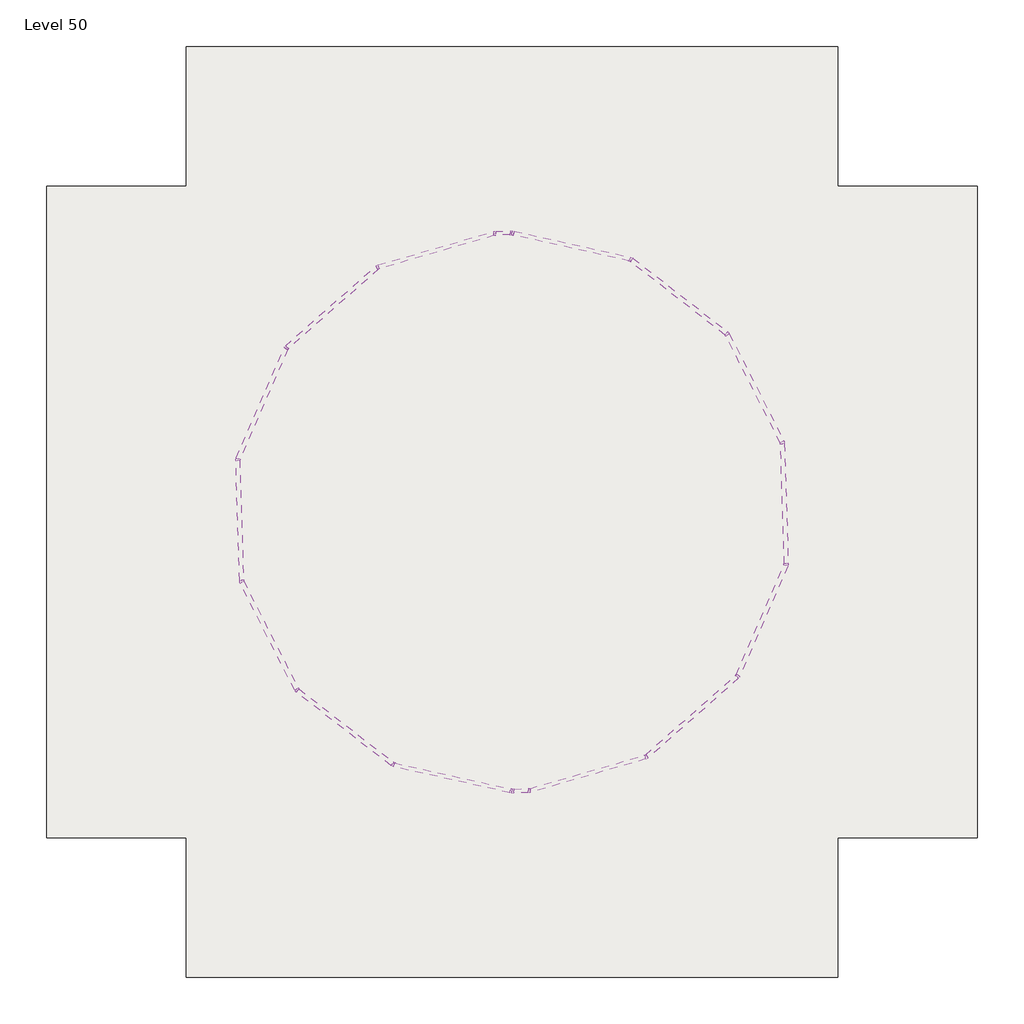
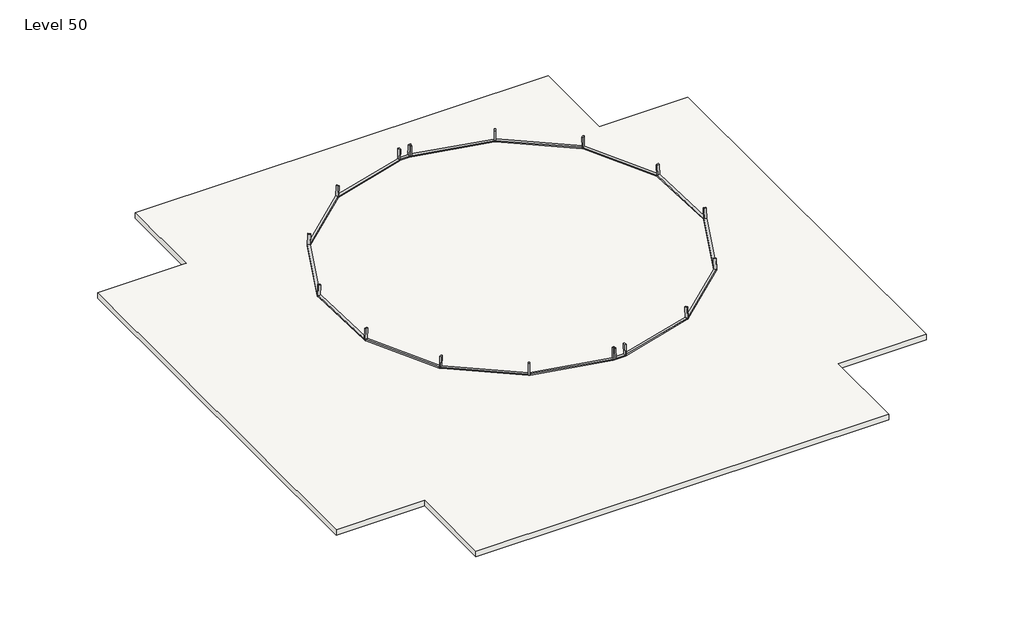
# One storey: 34 members, 2 slabs.
"""IFC4 building model written with IfcOpenShell, lengths in millimetres."""

from ifc_helpers import new_model, si_unit, frame, origin, place, context, project, spatial, polyline, outline, extrude, transform, mapped, element, save
from components import member_340acb32, member_0456bca8, member_fa179ced, member_23fb2982, member_628a761d, member_ef28eaa1

model = new_model("IFC4")

# Units and contexts
model_context = context("Model", 3, world=origin())
ifc_project = project(units=[si_unit("LENGTHUNIT", "METRE", prefix="MILLI")], contexts=[model_context])

# Site, building, storey
site = spatial("IfcSite", under=ifc_project)
building = spatial("IfcBuilding", under=site)
storey = spatial("IfcBuildingStorey", under=building, Name="Level 50", Elevation=149352.0)

# Members
placement = place(None, origin())
member_shape = member_340acb32(model_context)
element("IfcMember", 1, ObjectType="Rectangular Mullion : 2.5\" x 5\" rectangular", at=placement, inside=storey, context=model_context, shape_type="MappedRepresentation", body=[
    mapped(member_shape, transform((-3513.2075327, -12001.1345038, 153025.5719668), x_axis=(-0.6371882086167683, 0.7707082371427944, 0.0), y_axis=(-0.7702566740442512, -0.6368148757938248, 0.034226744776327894), z_axis=(0.026378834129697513, 0.021808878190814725, 0.9994140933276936))),
])
element("IfcMember", 2, ObjectType="Rectangular Mullion : 2.5\" x 5\" rectangular", at=placement, inside=storey, context=model_context, shape_type="MappedRepresentation", body=[
    mapped(member_shape, transform((-5319.3768815, -8452.9734723, 153025.5719668), x_axis=(-0.24824532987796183, 0.9686971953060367, 0.0), y_axis=(-0.9681296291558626, -0.24809988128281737, 0.03422674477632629), z_axis=(0.03315535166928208, 0.008496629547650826, 0.9994140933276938))),
])
element("IfcMember", 3, ObjectType="Rectangular Mullion : 2.5\" x 5\" rectangular", at=placement, inside=storey, context=model_context, shape_type="MappedRepresentation", body=[
    mapped(member_shape, transform((-367.8296911, -14442.0959241, 153025.5719668), x_axis=(-0.9047619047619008, 0.4259177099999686, 0.0), y_axis=(-0.4256681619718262, -0.9042317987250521, 0.03422674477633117), z_axis=(0.014577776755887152, 0.030967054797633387, 0.9994140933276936))),
])
element("IfcMember", 4, ObjectType="Rectangular Mullion : 2.5\" x 5\" rectangular", at=placement, inside=storey, context=model_context, shape_type="MappedRepresentation", body=[
    mapped(member_shape, transform((-5442.3054806, -4473.4530262, 153025.5719668), x_axis=(0.18798237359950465, 0.9821724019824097, 0.0), y_axis=(-0.9815969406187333, 0.1878722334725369, 0.03422674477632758), z_axis=(0.03361656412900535, -0.006434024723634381, 0.9994140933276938))),
])
element("IfcMember", 5, ObjectType="Rectangular Mullion : 2.5\" x 5\" rectangular", at=placement, inside=storey, context=model_context, shape_type="MappedRepresentation", body=[
    mapped(member_shape, transform((-3858.5783588, -820.5770599, 153025.5719668), x_axis=(0.5884039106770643, 0.8085671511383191, 0.0), y_axis=(-0.8080934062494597, 0.5880591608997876, 0.03422674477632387), z_axis=(0.02767462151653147, -0.020139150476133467, 0.9994140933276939))),
])
element("IfcMember", 6, ObjectType="Rectangular Mullion : 2.5\" x 5\" rectangular", at=placement, inside=storey, context=model_context, shape_type="MappedRepresentation", body=[
    mapped(member_shape, transform((-869.8578249, 1809.8685283, 153025.5719668), x_axis=(0.8767485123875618, 0.4809491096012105, 0.0), y_axis=(-0.48066731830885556, 0.8762348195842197, 0.03422674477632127), z_axis=(0.016461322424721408, -0.030008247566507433, 0.9994140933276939))),
])
element("IfcMember", 7, ObjectType="Rectangular Mullion : 2.5\" x 5\" rectangular", at=placement, inside=storey, context=model_context, shape_type="MappedRepresentation", body=[
    mapped(member_shape, transform((2954.5760193, 2916.8464834, 153025.5719668), x_axis=(0.9980933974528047, 0.061721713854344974, 0.0), y_axis=(-0.06168555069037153, 0.9975086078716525, 0.0342267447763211), z_axis=(0.002112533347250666, -0.03416148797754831, 0.999414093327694))),
])
element("IfcMember", 8, ObjectType="Rectangular Mullion : 2.5\" x 5\" rectangular", at=placement, inside=storey, context=model_context, shape_type="MappedRepresentation", body=[
    mapped(member_shape, transform((7403.1037999, 2065.4228336, 153025.5719668), x_axis=(0.9047619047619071, -0.42591770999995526, 0.0), y_axis=(0.4256681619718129, 0.9042317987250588, 0.03422674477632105), z_axis=(-0.014577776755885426, -0.030967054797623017, 0.9994140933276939))),
])
element("IfcMember", 9, ObjectType="Rectangular Mullion : 2.5\" x 5\" rectangular", at=placement, inside=storey, context=model_context, shape_type="MappedRepresentation", body=[
    mapped(member_shape, transform((10548.4816414, -375.5385867, 153025.5719668), x_axis=(0.6371882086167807, -0.7707082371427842, 0.0), y_axis=(0.7702566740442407, 0.6368148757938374, 0.03422674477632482), z_axis=(-0.026378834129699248, -0.02180887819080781, 0.9994140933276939))),
])
element("IfcMember", 10, ObjectType="Rectangular Mullion : 2.5\" x 5\" rectangular", at=placement, inside=storey, context=model_context, shape_type="MappedRepresentation", body=[
    mapped(member_shape, transform((12354.6509902, -3923.6996182, 153025.5719668), x_axis=(0.2482453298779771, -0.9686971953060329, 0.0), y_axis=(0.9681296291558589, 0.24809988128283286, 0.03422674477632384), z_axis=(-0.03315535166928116, -0.008496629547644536, 0.9994140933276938))),
])
element("IfcMember", 11, ObjectType="Rectangular Mullion : 2.5\" x 5\" rectangular", at=placement, inside=storey, context=model_context, shape_type="MappedRepresentation", body=[
    mapped(member_shape, transform((12477.5795894, -7903.2200643, 153025.5719668), x_axis=(-0.1879823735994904, -0.9821724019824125, 0.0), y_axis=(0.9815969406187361, -0.1878722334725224, 0.03422674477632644), z_axis=(-0.033616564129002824, 0.006434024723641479, 0.9994140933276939))),
])
element("IfcMember", 12, ObjectType="Rectangular Mullion : 2.5\" x 5\" rectangular", at=placement, inside=storey, context=model_context, shape_type="MappedRepresentation", body=[
    mapped(member_shape, transform((10893.8524675, -11556.0960307, 153025.5719668), x_axis=(-0.5884039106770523, -0.8085671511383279, 0.0), y_axis=(0.8080934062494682, -0.5880591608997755, 0.0342267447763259), z_axis=(-0.02767462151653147, 0.02013915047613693, 0.9994140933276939))),
])
element("IfcMember", 13, ObjectType="Rectangular Mullion : 2.5\" x 5\" rectangular", at=placement, inside=storey, context=model_context, shape_type="MappedRepresentation", body=[
    mapped(member_shape, transform((7905.1319337, -14186.5416188, 153025.5719668), x_axis=(-0.876748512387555, -0.4809491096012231, 0.0), y_axis=(0.480667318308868, -0.8762348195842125, 0.03422674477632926), z_axis=(-0.016461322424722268, 0.03000824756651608, 0.9994140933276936))),
])
element("IfcMember", 14, ObjectType="Rectangular Mullion : 2.5\" x 5\" rectangular", at=placement, inside=storey, context=model_context, shape_type="MappedRepresentation", body=[
    mapped(member_shape, transform((4080.6980895, -15293.5195739, 153025.5719668), x_axis=(-0.9980933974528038, -0.061721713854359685, 0.0), y_axis=(0.06168555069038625, -0.9975086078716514, 0.03422674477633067), z_axis=(-0.002112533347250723, 0.034161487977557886, 0.9994140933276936))),
])
member_2_shape = member_0456bca8(model_context)
element("IfcMember", 15, ObjectType="Rectangular Mullion : 2.5\" x 5\" rectangular", at=placement, inside=storey, context=model_context, shape_type="MappedRepresentation", body=[
    mapped(member_2_shape, transform((-345.9696586, -14468.4078204, 152400.0), x_axis=(-0.007289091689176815, -0.03259780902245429, -0.999441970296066), y_axis=(-0.2180961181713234, -0.9753554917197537, 0.03340281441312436), z_axis=(-0.9759000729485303, 0.2182178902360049, 0.0))),
])
element("IfcMember", 16, ObjectType="Rectangular Mullion : 2.5\" x 5\" rectangular", at=placement, inside=storey, context=model_context, shape_type="MappedRepresentation", body=[
    mapped(member_2_shape, transform((7381.2437673, 2091.7347299, 152400.0), x_axis=(0.00728909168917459, 0.03259780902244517, -0.9994419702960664), y_axis=(0.21809611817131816, 0.9753554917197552, 0.033402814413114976), z_axis=(0.9759000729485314, -0.21821789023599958, 0.0))),
])
member_3_shape = member_fa179ced(model_context)
element("IfcMember", 17, ObjectType="Rectangular Mullion : 2.5\" x 5\" rectangular", at=placement, inside=storey, context=model_context, shape_type="MappedRepresentation", body=[
    mapped(member_3_shape, transform((-3504.6361106, -12034.2510802, 152400.0), x_axis=(-0.020478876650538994, -0.026388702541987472, -0.999441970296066), y_axis=(-0.6127462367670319, -0.7895734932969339, 0.033402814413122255), z_axis=(-0.7900143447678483, 0.6130883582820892, 0.0))),
])
element("IfcMember", 18, ObjectType="Rectangular Mullion : 2.5\" x 5\" rectangular", at=placement, inside=storey, context=model_context, shape_type="MappedRepresentation", body=[
    mapped(member_3_shape, transform((-5325.7267217, -8486.5868096, 152400.0), x_axis=(-0.02976792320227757, -0.01515317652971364, -0.9994419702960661), y_axis=(-0.8906827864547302, -0.4533965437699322, 0.03340281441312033), z_axis=(-0.45364969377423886, 0.8911800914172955, 0.0))),
])
element("IfcMember", 19, ObjectType="Rectangular Mullion : 2.5\" x 5\" rectangular", at=placement, inside=storey, context=model_context, shape_type="MappedRepresentation", body=[
    mapped(member_3_shape, transform((-5462.3670898, -4501.1605838, 152400.0), x_axis=(-0.03338688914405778, -0.0010313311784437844, -0.9994419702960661), y_axis=(-0.998965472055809, -0.03085834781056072, 0.03340281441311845), z_axis=(-0.03087557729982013, 0.9995232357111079, 0.0))),
])
element("IfcMember", 20, ObjectType="Rectangular Mullion : 2.5\" x 5\" rectangular", at=placement, inside=storey, context=model_context, shape_type="MappedRepresentation", body=[
    mapped(member_3_shape, transform((-3888.530478, -837.1012078, 152400.0), x_axis=(-0.03064644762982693, 0.013286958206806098, -0.9994419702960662), y_axis=(-0.9169690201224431, 0.39755762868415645, 0.033402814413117), z_axis=(0.3977796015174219, 0.917481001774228, 0.0))),
])
element("IfcMember", 21, ObjectType="Rectangular Mullion : 2.5\" x 5\" rectangular", at=placement, inside=storey, context=model_context, shape_type="MappedRepresentation", body=[
    mapped(member_3_shape, transform((-903.9952886, 1807.6752467, 152400.0), x_axis=(-0.022068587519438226, 0.025074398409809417, -0.9994419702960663), y_axis=(-0.660311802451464, 0.7502483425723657, 0.03340281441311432), z_axis=(0.7506672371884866, 0.6606804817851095, 0.0))),
])
element("IfcMember", 22, ObjectType="Rectangular Mullion : 2.5\" x 5\" rectangular", at=placement, inside=storey, context=model_context, shape_type="MappedRepresentation", body=[
    mapped(member_3_shape, transform((2922.7555852, 2929.4018361, 152400.0), x_axis=(-0.009287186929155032, 0.032085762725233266, -0.9994419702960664), y_axis=(-0.2778809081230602, 0.9600346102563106, 0.033402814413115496), z_axis=(0.9605706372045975, 0.2780360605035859, 0.0))),
])
element("IfcMember", 23, ObjectType="Rectangular Mullion : 2.5\" x 5\" rectangular", at=placement, inside=storey, context=model_context, shape_type="MappedRepresentation", body=[
    mapped(member_3_shape, transform((10539.9102194, -342.4220103, 152400.0), x_axis=(0.020478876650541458, 0.026388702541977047, -0.9994419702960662), y_axis=(0.6127462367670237, 0.7895734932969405, 0.033402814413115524), z_axis=(0.7900143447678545, -0.6130883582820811, 0.0))),
])
element("IfcMember", 24, ObjectType="Rectangular Mullion : 2.5\" x 5\" rectangular", at=placement, inside=storey, context=model_context, shape_type="MappedRepresentation", body=[
    mapped(member_3_shape, transform((12361.0008305, -3890.086281, 152400.0), x_axis=(0.0297679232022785, 0.015153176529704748, -0.9994419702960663), y_axis=(0.8906827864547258, 0.4533965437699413, 0.03340281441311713), z_axis=(0.4536496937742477, -0.891180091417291, 0.0))),
])
element("IfcMember", 25, ObjectType="Rectangular Mullion : 2.5\" x 5\" rectangular", at=placement, inside=storey, context=model_context, shape_type="MappedRepresentation", body=[
    mapped(member_3_shape, transform((12497.6411985, -7875.5125067, 152400.0), x_axis=(0.03338688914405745, 0.0010313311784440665, -0.9994419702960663), y_axis=(0.9989654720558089, 0.030858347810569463, 0.033402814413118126), z_axis=(0.030875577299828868, -0.9995232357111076, 0.0))),
])
element("IfcMember", 26, ObjectType="Rectangular Mullion : 2.5\" x 5\" rectangular", at=placement, inside=storey, context=model_context, shape_type="MappedRepresentation", body=[
    mapped(member_3_shape, transform((10923.8045867, -11539.5718827, 152400.0), x_axis=(0.03064644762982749, -0.013286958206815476, -0.9994419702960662), y_axis=(0.9169690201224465, -0.397557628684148, 0.033402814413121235), z_axis=(-0.3977796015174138, -0.9174810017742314, 0.0))),
])
element("IfcMember", 27, ObjectType="Rectangular Mullion : 2.5\" x 5\" rectangular", at=placement, inside=storey, context=model_context, shape_type="MappedRepresentation", body=[
    mapped(member_3_shape, transform((7939.2693973, -14184.3483372, 152400.0), x_axis=(0.0220685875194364, -0.025074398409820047, -0.9994419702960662), y_axis=(0.6603118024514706, -0.7502483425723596, 0.03340281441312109), z_axis=(-0.750667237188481, -0.660680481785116, 0.0))),
])
element("IfcMember", 28, ObjectType="Rectangular Mullion : 2.5\" x 5\" rectangular", at=placement, inside=storey, context=model_context, shape_type="MappedRepresentation", body=[
    mapped(member_3_shape, transform((4112.5185236, -15306.0749267, 152400.0), x_axis=(0.00928718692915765, -0.03208576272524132, -0.999441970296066), y_axis=(0.277880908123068, -0.9600346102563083, 0.03340281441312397), z_axis=(-0.9605706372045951, -0.27803606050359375, 0.0))),
])
member_4_shape = member_23fb2982(model_context)
element("IfcMember", 29, ObjectType="Rectangular Mullion : 2.5\" x 5\" rectangular", at=placement, inside=storey, context=model_context, shape_type="MappedRepresentation", body=[
    mapped(member_4_shape, transform((3454.1673289, 2953.7028556, 152400.0), x_axis=(-0.0010562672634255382, 0.03419413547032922, -0.9994146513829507), y_axis=(-0.03085750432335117, 0.9989381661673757, 0.034210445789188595), z_axis=(0.9995232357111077, 0.030875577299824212, 0.0))),
])
element("IfcMember", 30, ObjectType="Rectangular Mullion : 2.5\" x 5\" rectangular", at=placement, inside=storey, context=model_context, shape_type="MappedRepresentation", body=[
    mapped(member_4_shape, transform((3581.1067798, -15330.3759461, 152400.0), x_axis=(0.0010562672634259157, -0.034194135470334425, -0.9994146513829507), y_axis=(0.03085750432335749, -0.9989381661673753, 0.0342104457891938), z_axis=(-0.9995232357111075, -0.030875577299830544, 0.0))),
])
member_5_shape = member_628a761d(model_context)
element("IfcMember", 31, ObjectType="Rectangular Mullion : 2.5\" x 5\" rectangular", at=placement, inside=storey, context=model_context, shape_type="MappedRepresentation", body=[
    mapped(member_5_shape, transform((3517.6370544, 2934.2396103, 153025.5719668), x_axis=(0.9995237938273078, 0.030839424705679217, 0.0010561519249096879), y_axis=(-0.03085750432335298, 0.9989381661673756, 0.03421044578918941), z_axis=(0.0, -0.03422674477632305, 0.9994140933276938))),
])
element("IfcMember", 32, ObjectType="Rectangular Mullion : 2.5\" x 5\" rectangular", at=placement, inside=storey, context=model_context, shape_type="MappedRepresentation", body=[
    mapped(member_5_shape, transform((3517.6370544, -15310.9127008, 153025.5719668), x_axis=(-0.9995237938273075, -0.030839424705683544, 0.0010561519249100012), y_axis=(0.030857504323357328, -0.9989381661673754, 0.03421044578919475), z_axis=(0.0, 0.0342267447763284, 0.9994140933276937))),
])
member_6_shape = member_ef28eaa1(model_context)
element("IfcMember", 33, ObjectType="Rectangular Mullion : 2.5\" x 5\" rectangular", at=placement, inside=storey, context=model_context, shape_type="MappedRepresentation", body=[
    mapped(member_6_shape, transform((3517.6370544, -15332.3365453, 152400.0), x_axis=(0.975927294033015, -0.2179683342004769, 0.007464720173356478), y_axis=(-0.2180961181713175, -0.9753554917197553, 0.033402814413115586), z_axis=(0.0, -0.03422674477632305, -0.9994140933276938))),
])
element("IfcMember", 34, ObjectType="Rectangular Mullion : 2.5\" x 5\" rectangular", at=placement, inside=storey, context=model_context, shape_type="MappedRepresentation", body=[
    mapped(member_6_shape, transform((3517.6370544, 2955.6634547, 152400.0), x_axis=(-0.9759272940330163, 0.21796833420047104, 0.007464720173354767), y_axis=(0.2180961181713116, 0.9753554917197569, 0.03340281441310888), z_axis=(0.0, 0.03422674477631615, -0.9994140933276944))),
])

# Slabs
element("IfcSlab", 35, ObjectType="Generic - 12\"", at=placement, inside=storey, context=model_context, shape_type="SweptSolid", body=[
    extrude(outline(polyline([(-7150.3629456, 4479.6634547), (-7150.3629456, 9051.6634547), (14185.6370544, 9051.6634547), (14185.6370544, 4479.6634547), (18757.6370544, 4479.6634547), (18757.6370544, -16856.3365453), (14185.6370544, -16856.3365453), (14185.6370544, -21428.3365453), (-7150.3629456, -21428.3365453), (-7150.3629456, -16856.3365453), (-11722.3629456, -16856.3365453), (-11722.3629456, 4479.6634547), (-7150.3629456, 4479.6634547)])), frame((0.0, 0.0, 149047.2), z_axis=(0.0, 0.0, 1.0), x_axis=(1.0, 0.0, 0.0)), (0.0, 0.0, 1.0), 304.8),
])
element("IfcSlab", 36, ObjectType="Generic - 12\"", at=placement, inside=storey, context=model_context, shape_type="SweptSolid", body=[
    extrude(outline(polyline([(-7150.3629456, 4479.6634547), (-7150.3629456, 9051.6634547), (14185.6370544, 9051.6634547), (14185.6370544, 4479.6634547), (18757.6370544, 4479.6634547), (18757.6370544, -16856.3365453), (14185.6370544, -16856.3365453), (14185.6370544, -21428.3365453), (-7150.3629456, -21428.3365453), (-7150.3629456, -16856.3365453), (-11722.3629456, -16856.3365453), (-11722.3629456, 4479.6634547), (-7150.3629456, 4479.6634547)])), frame((0.0, 0.0, 149047.2), z_axis=(0.0, 0.0, 1.0), x_axis=(1.0, 0.0, 0.0)), (0.0, 0.0, 1.0), 304.8),
])

save(model, "model.ifc")
